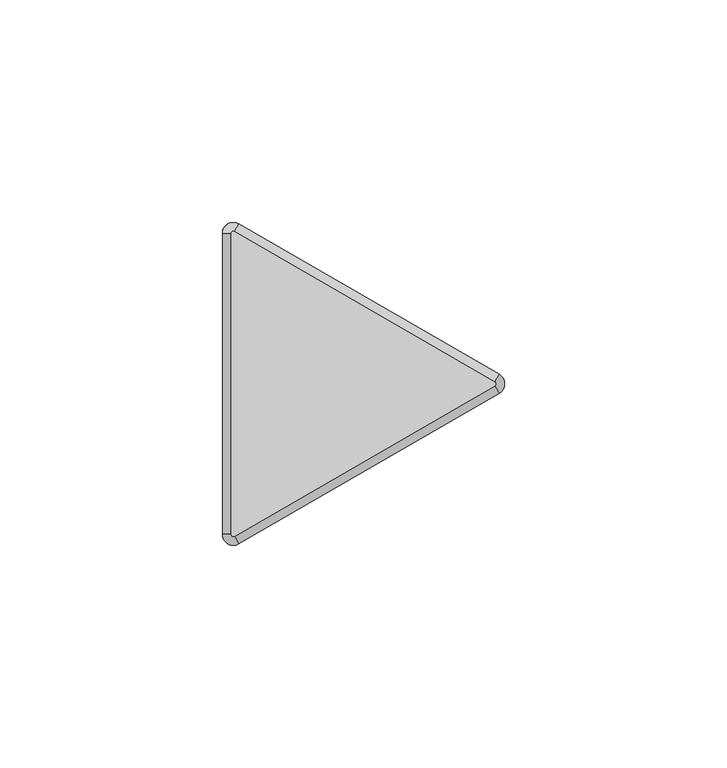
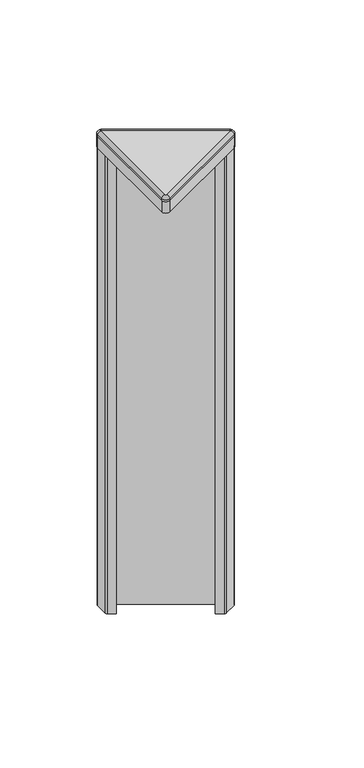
"""IFC4 building model written with IfcOpenShell, lengths in millimetres: furniture geometry, Steelcase - Answer Solution - Panel - 120deg Change-of-Height Trim - Thin : V Corner - 12H for 54H App."""

from ifc_helpers import new_model, si_unit, point, frame, frame_2d, origin, place, context, project, spatial, polyline, circle_curve, ellipse_curve, trimmed, segment, composite_curve, outline, extrude, source, transform, mapped, element, save
from ifc_brep_helpers import plane_surface, cylinder_surface, revolved_surface, advanced_brep


def furniture_e90e2ab8(model_context):
    return source(origin(), model_context, "Body", "SolidModel", [
        advanced_brep(
        [(-10.518645, -37.3335529, 1376.0628978), (-14.2052101, -35.2051135, 1376.0628978), (-14.2052101, -35.2051135, 1375.1164663), (-10.518645, -37.3335529, 1375.1164663), (-11.46175, -35.7000471, 1377.95), (-12.319, -35.2051135, 1377.95), (-11.46175, -35.7000471, 1375.1164663), (-12.319, -35.2051135, 1375.1164663), (48.0429908, -3.5229767, 1375.1164663), (48.0429908, -3.5229767, 1376.0628978), (47.0998858, -1.8894709, 1377.95), (47.0998858, -1.8894709, 1375.1164663), (48.0429908, 0.733902, 1376.0628978), (48.0429908, 0.733902, 1375.1164663), (47.0998858, -0.8996038, 1377.95), (47.0998858, -0.8996038, 1375.1164663), (-10.518645, 34.5444782, 1375.1164663), (-14.2052101, 32.4160388, 1375.1164663), (-11.46175, 32.9109723, 1375.1164663), (-12.319, 32.4160388, 1375.1164663), (-10.518645, 34.5444782, 1376.0628978), (-11.46175, 32.9109723, 1377.95), (-14.2052101, 32.4160388, 1376.0628978), (-12.319, 32.4160388, 1377.95)],
        [
            (0, 1, circle_curve(frame((-11.7475, -35.2051135, 1376.0628978), z_axis=(0.0, 0.0, -1.0), x_axis=(-1.0, 0.0, 0.0)), 2.4577101)),
            (1, 2),
            (2, 3, circle_curve(frame((-11.7475, -35.2051135, 1375.1164663), z_axis=(0.0, 0.0, 1.0), x_axis=(-1.0, 0.0, 0.0)), 2.4577101)),
            (3, 0),
            (4, 5, circle_curve(frame((-11.7475, -35.2051135, 1377.95), z_axis=(0.0, 0.0, -1.0), x_axis=(-1.0, 0.0, 0.0)), 0.5715)),
            (5, 1, circle_curve(frame((-12.3181076, -35.2051135, 1376.0628978), z_axis=(0.0, -1.0, 0.0), x_axis=(1.0, 0.0, 0.0)), 1.8871024)),
            (0, 4, circle_curve(frame((-11.4621962, -35.6992743, 1376.0628978), z_axis=(-0.8660254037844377, -0.5000000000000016, 0.0), x_axis=(-0.5000000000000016, 0.8660254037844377, 0.0)), 1.8871024)),
            (6, 7, circle_curve(frame((-11.7475, -35.2051135, 1375.1164663), z_axis=(0.0, 0.0, -1.0), x_axis=(-1.0, 0.0, 0.0)), 0.5715)),
            (7, 5),
            (4, 6),
            (3, 8),
            (8, 9),
            (9, 0),
            (9, 10, circle_curve(frame((47.0994396, -1.8886981, 1376.0628978), z_axis=(-0.8660254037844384, -0.5000000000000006, 0.0), x_axis=(-0.5000000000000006, 0.8660254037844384, 0.0)), 1.8871024)),
            (10, 4),
            (10, 11),
            (11, 6),
            (12, 9, circle_curve(frame((46.8141358, -1.3945374, 1376.0628978), z_axis=(0.0, 0.0, -1.0), x_axis=(0.4999999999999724, -0.8660254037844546, 0.0)), 2.4577101)),
            (8, 13, circle_curve(frame((46.8141358, -1.3945374, 1375.1164663), z_axis=(0.0, 0.0, 1.0), x_axis=(0.4999999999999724, -0.8660254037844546, 0.0)), 2.4577101)),
            (13, 12),
            (14, 10, circle_curve(frame((46.8141358, -1.3945374, 1377.95), z_axis=(0.0, 0.0, -1.0), x_axis=(0.4999999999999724, -0.8660254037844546, 0.0)), 0.5715)),
            (12, 14, circle_curve(frame((47.0994396, -0.9003766, 1376.0628978), z_axis=(0.8660254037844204, -0.5000000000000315, 0.0), x_axis=(-0.5000000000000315, -0.8660254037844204, 0.0)), 1.8871024)),
            (15, 11, circle_curve(frame((46.8141358, -1.3945374, 1375.1164663), z_axis=(0.0, 0.0, -1.0), x_axis=(0.4999999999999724, -0.8660254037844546, 0.0)), 0.5715)),
            (14, 15),
            (16, 13),
            (2, 17),
            (17, 16, circle_curve(frame((-11.7475, 32.4160388, 1375.1164663), z_axis=(0.0, 0.0, -1.0), x_axis=(0.500000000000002, 0.8660254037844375, 0.0)), 2.4577101)),
            (15, 18),
            (18, 19, circle_curve(frame((-11.7475, 32.4160388, 1375.1164663), z_axis=(0.0, 0.0, 1.0), x_axis=(0.500000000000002, 0.8660254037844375, 0.0)), 0.5715)),
            (19, 7),
            (16, 20),
            (20, 12),
            (20, 21, circle_curve(frame((-11.4621962, 32.9101995, 1376.0628978), z_axis=(0.8660254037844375, -0.5000000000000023, 0.0), x_axis=(-0.5000000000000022, -0.8660254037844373, 0.0)), 1.8871024)),
            (21, 14),
            (21, 18),
            (22, 20, circle_curve(frame((-11.7475, 32.4160388, 1376.0628978), z_axis=(0.0, 0.0, -1.0), x_axis=(0.500000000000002, 0.8660254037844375, 0.0)), 2.4577101)),
            (17, 22),
            (23, 21, circle_curve(frame((-11.7475, 32.4160388, 1377.95), z_axis=(0.0, 0.0, -1.0), x_axis=(0.500000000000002, 0.8660254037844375, 0.0)), 0.5715)),
            (22, 23, circle_curve(frame((-12.3181076, 32.4160388, 1376.0628978), z_axis=(0.0, 1.0, 0.0), x_axis=(1.0, 0.0, 0.0)), 1.8871024)),
            (23, 19),
            (1, 22),
            (5, 23),
        ],
        [
            cylinder_surface(frame((-11.7475, -35.2051135, 0.0), z_axis=(0.0, 0.0, 1.0), x_axis=(-1.0, 0.0, 0.0)), 2.4577101),
            revolved_surface(trimmed(ellipse_curve(frame((-12.3181076, -35.2051135, 1376.0628978), z_axis=(0.0, 1.0, 0.0), x_axis=(1.0, 0.0, 0.0)), 1.8871024, 1.8871024), [point((-14.2052101, -35.2051135, 1376.0628978))], [point((-12.319, -35.2051135, 1377.95))], True, "CARTESIAN"), (-11.7475, -35.2051135, 0.0), (0.0, 0.0, 1.0)),
            revolved_surface(polyline([(-12.319, -35.2051135, 1377.95), (-12.319, -35.2051135, 1375.1164663)]), (-11.7475, -35.2051135, 0.0), (0.0, 0.0, 1.0)),
            plane_surface(frame((-10.518645, -37.3335529, 1375.1164663), z_axis=(0.49999999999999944, -0.866025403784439, 0.0), x_axis=(0.866025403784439, 0.49999999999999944, 0.0))),
            cylinder_surface(frame((-11.4621962, -35.6992743, 1376.0628978), z_axis=(-0.8660254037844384, -0.5000000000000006, 0.0), x_axis=(-0.5000000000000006, 0.8660254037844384, 0.0)), 1.8871024),
            plane_surface(frame((-11.46175, -35.7000471, 1377.95), z_axis=(-0.49999999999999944, 0.866025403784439, 0.0), x_axis=(0.866025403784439, 0.49999999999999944, 0.0))),
            cylinder_surface(frame((46.8141358, -1.3945374, 0.0), z_axis=(0.0, 0.0, 1.0), x_axis=(0.4999999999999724, -0.8660254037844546, 0.0)), 2.4577101),
            revolved_surface(trimmed(ellipse_curve(frame((47.0994396, -1.8886981, 1376.0628978), z_axis=(-0.8660254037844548, -0.499999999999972, 0.0), x_axis=(-0.499999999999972, 0.8660254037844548, 0.0)), 1.8871024, 1.8871024), [point((48.0429908, -3.5229767, 1376.0628978))], [point((47.0998858, -1.8894709, 1377.95))], True, "CARTESIAN"), (46.8141358, -1.3945374, 0.0), (0.0, 0.0, 1.0)),
            revolved_surface(polyline([(47.09988579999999, -1.8894709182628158, 1377.95), (47.09988579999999, -1.8894709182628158, 1375.1164663)]), (46.8141358, -1.3945374, 0.0), (0.0, 0.0, 1.0)),
            plane_surface(frame((47.0998858, -0.8996038, 1375.1164663), z_axis=(0.0, 0.0, -1.0000000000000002), x_axis=(-0.8660254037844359, 0.5000000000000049, 0.0))),
            plane_surface(frame((48.0429908, 0.733902, 1375.1164663), z_axis=(0.5000000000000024, 0.8660254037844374, 0.0), x_axis=(-0.8660254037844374, 0.5000000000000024, 0.0))),
            cylinder_surface(frame((47.0994396, -0.9003766, 1376.0628978), z_axis=(0.8660254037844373, -0.5000000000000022, 0.0), x_axis=(-0.5000000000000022, -0.8660254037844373, 0.0)), 1.8871024),
            plane_surface(frame((47.0998858, -0.8996038, 1377.95), z_axis=(-0.5000000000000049, -0.8660254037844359, 0.0), x_axis=(-0.8660254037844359, 0.5000000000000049, 0.0))),
            cylinder_surface(frame((-11.7475, 32.4160388, 0.0), z_axis=(0.0, 0.0, 1.0), x_axis=(0.500000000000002, 0.8660254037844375, 0.0)), 2.4577101),
            revolved_surface(trimmed(ellipse_curve(frame((-11.4621962, 32.9101995, 1376.0628978), z_axis=(0.866025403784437, -0.5000000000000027, 0.0), x_axis=(-0.5000000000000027, -0.866025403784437, 0.0)), 1.8871024, 1.8871024), [point((-10.518645, 34.5444782, 1376.0628978))], [point((-11.46175, 32.9109723, 1377.95))], True, "CARTESIAN"), (-11.7475, 32.4160388, 0.0), (0.0, 0.0, 1.0)),
            revolved_surface(polyline([(-11.461749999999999, 32.91097231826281, 1377.95), (-11.461749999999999, 32.91097231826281, 1375.1164663)]), (-11.7475, 32.4160388, 0.0), (0.0, 0.0, 1.0)),
            plane_surface(frame((-14.2052101, 32.4160388, 1375.1164663), z_axis=(-1.0, 0.0, 0.0), x_axis=(0.0, -1.0, 0.0))),
            cylinder_surface(frame((-12.3181076, 32.4160388, 1376.0628978), z_axis=(0.0, 1.0, 0.0), x_axis=(1.0, 0.0, 0.0)), 1.8871024),
            plane_surface(frame((-12.319, 32.4160388, 1377.95), z_axis=(1.0, 0.0, 0.0), x_axis=(0.0, -1.0, 0.0))),
        ],
        [
            (0, [[1, 2, 3, 4]]),
            (1, [[5, 6, -1, 7]]),
            (2, [[8, 9, -5, 10]]),
            (3, [[-4, 11, 12, 13]]),
            (4, [[-7, -13, 14, 15]]),
            (5, [[-10, -15, 16, 17]]),
            (6, [[18, -12, 19, 20]]),
            (7, [[21, -14, -18, 22]]),
            (8, [[23, -16, -21, 24]]),
            (9, [[25, -19, -11, -3, 26, 27], [-8, -17, -23, 28, 29, 30]]),
            (10, [[-20, -25, 31, 32]]),
            (11, [[-22, -32, 33, 34]]),
            (12, [[-24, -34, 35, -28]]),
            (13, [[36, -31, -27, 37]]),
            (14, [[38, -33, -36, 39]]),
            (15, [[-29, -35, -38, 40]]),
            (16, [[-37, -26, -2, 41]]),
            (17, [[-39, -41, -6, 42]]),
            (18, [[-40, -42, -9, -30]]),
        ],
    ),
        extrude(outline(composite_curve([segment(trimmed(circle_curve(frame_2d((46.8261011, -1.3945374)), 0.5655173), [point((47.1088598, -0.904785))], [point((47.1088598, -1.8842897))], False, "CARTESIAN"), True, "CONTINUOUS"), segment(polyline([(47.1088598, -1.8842897), (-11.4505119, -35.6935587)]), True, "CONTINUOUS"), segment(trimmed(circle_curve(frame_2d((-11.7400079, -35.1921369)), 0.5789921), [point((-11.4505119, -35.6935587))], [point((-12.319, -35.1921369))], False, "CARTESIAN"), True, "CONTINUOUS"), segment(polyline([(-12.319, -35.1921369), (-12.319, 32.3985888)]), True, "CONTINUOUS"), segment(trimmed(circle_curve(frame_2d((-11.7374252, 32.3985888)), 0.5815748), [point((-12.319, 32.3985888))], [point((-11.4466378, 32.9022473))], False, "CARTESIAN"), True, "CONTINUOUS"), segment(polyline([(-11.4466378, 32.9022473), (47.1088598, -0.904785)]), True, "CONTINUOUS")], self_intersect=False)), frame((0.0, 0.0, 1375.1164663), z_axis=(0.0, 0.0, 1.0), x_axis=(1.0, 0.0, 0.0)), (0.0, 0.0, 1.0), 2.8335337),
        extrude(outline(composite_curve([segment(trimmed(circle_curve(frame_2d((47.9608454, -1.3945374)), 1.2935425), [point((48.6076166, -0.2742967))], [point((48.6076166, -2.514778))], False, "CARTESIAN"), True, "CONTINUOUS"), segment(polyline([(48.6076166, -2.514778), (41.722656, -6.4898119)]), True, "CONTINUOUS"), segment(trimmed(circle_curve(frame_2d((41.0991304, -5.4098338)), 1.2470513), [point((41.722656, -6.4898119))], [point((40.4756048, -6.4898119))], False, "CARTESIAN"), True, "CONTINUOUS"), segment(polyline([(40.4756048, -6.4898119), (36.3239304, -4.0928416), (36.7811304, -3.300948), (41.0991304, -5.7939464), (47.3502407, -2.1848662)]), True, "CONTINUOUS"), segment(trimmed(circle_curve(frame_2d((46.8939441, -1.3945374)), 0.9125932), [point((47.3502407, -2.1848662))], [point((47.3502407, -0.6042085))], True, "CARTESIAN"), True, "CONTINUOUS"), segment(polyline([(47.3502407, -0.6042085), (-11.3312768, 33.2755814)]), True, "CONTINUOUS"), segment(trimmed(circle_curve(frame_2d((-11.7875179, 32.4853487)), 0.9124821), [point((-11.3312768, 33.2755814))], [point((-12.7, 32.4853487))], True, "CARTESIAN"), True, "CONTINUOUS"), segment(polyline([(-12.7, 32.4853487), (-12.7, 25.266996), (-8.382, 22.7739975), (-8.8392, 21.9821039), (-12.9583282, 24.3602837)]), True, "CONTINUOUS"), segment(trimmed(circle_curve(frame_2d((-12.3022565, 25.4966333)), 1.3121435), [point((-12.9583282, 24.3602837))], [point((-13.6144, 25.4966333))], False, "CARTESIAN"), True, "CONTINUOUS"), segment(polyline([(-13.6144, 25.4966333), (-13.6144, 33.3957138)]), True, "CONTINUOUS"), segment(trimmed(circle_curve(frame_2d((-12.3131174, 33.3957138)), 1.3012826), [point((-13.6144, 33.3957138))], [point((-11.6624761, 34.5226576))], False, "CARTESIAN"), True, "CONTINUOUS"), segment(polyline([(-11.6624761, 34.5226576), (48.6076166, -0.2742967)]), True, "CONTINUOUS")], self_intersect=False)), frame((0.0, 0.0, 1073.15), z_axis=(0.0, 0.0, 1.0), x_axis=(1.0, 0.0, 0.0)), (0.0, 0.0, 1.0), 294.64),
        extrude(outline(composite_curve([segment(trimmed(circle_curve(frame_2d((46.8140443, -1.3945374)), 2.4577558), [point((48.0429222, 0.7339416))], [point((48.0429222, -3.5230163))], False, "CARTESIAN"), True, "CONTINUOUS"), segment(polyline([(48.0429222, -3.5230163), (-10.518058, -37.333214)]), True, "CONTINUOUS"), segment(trimmed(circle_curve(frame_2d((-11.7471087, -35.2044357)), 2.4581014), [point((-10.518058, -37.333214))], [point((-14.2052101, -35.2044357))], False, "CARTESIAN"), True, "CONTINUOUS"), segment(polyline([(-14.2052101, -35.2044357), (-14.2052101, 32.4160388)]), True, "CONTINUOUS"), segment(trimmed(circle_curve(frame_2d((-11.7475, 32.4160388)), 2.4577101), [point((-14.2052101, 32.4160388))], [point((-10.518645, 34.5444782))], False, "CARTESIAN"), True, "CONTINUOUS"), segment(polyline([(-10.518645, 34.5444782), (48.0429222, 0.7339416)]), True, "CONTINUOUS")], self_intersect=False)), frame((0.0, 0.0, 1367.79), z_axis=(0.0, 0.0, 1.0), x_axis=(1.0, 0.0, 0.0)), (0.0, 0.0, 1.0), 7.3264663),
    ])


if __name__ == "__main__":
    model = new_model("IFC4")
    model_context = context("Model", 3, world=origin())
    ifc_project = project(units=[si_unit("LENGTHUNIT", "METRE", prefix="MILLI")], contexts=[model_context])
    site = spatial("IfcSite", under=ifc_project)
    building = spatial("IfcBuilding", under=site)
    placement = place(None, origin())
    furniture_shape = furniture_e90e2ab8(model_context)
    element("IfcFurniture", 1, ObjectType="Steelcase - Answer Solution - Panel - 120deg Change-of-Height Trim - Thin : V Corner - 12H for 54H App", at=placement, inside=building, context=model_context, shape_type="MappedRepresentation", body=[
        mapped(furniture_shape, transform((0.0, 0.0, 0.0), x_axis=(1.0, 0.0, 0.0), y_axis=(0.0, 1.0, 0.0), z_axis=(0.0, 0.0, 1.0))),
    ])
    save(model, "model.ifc")
